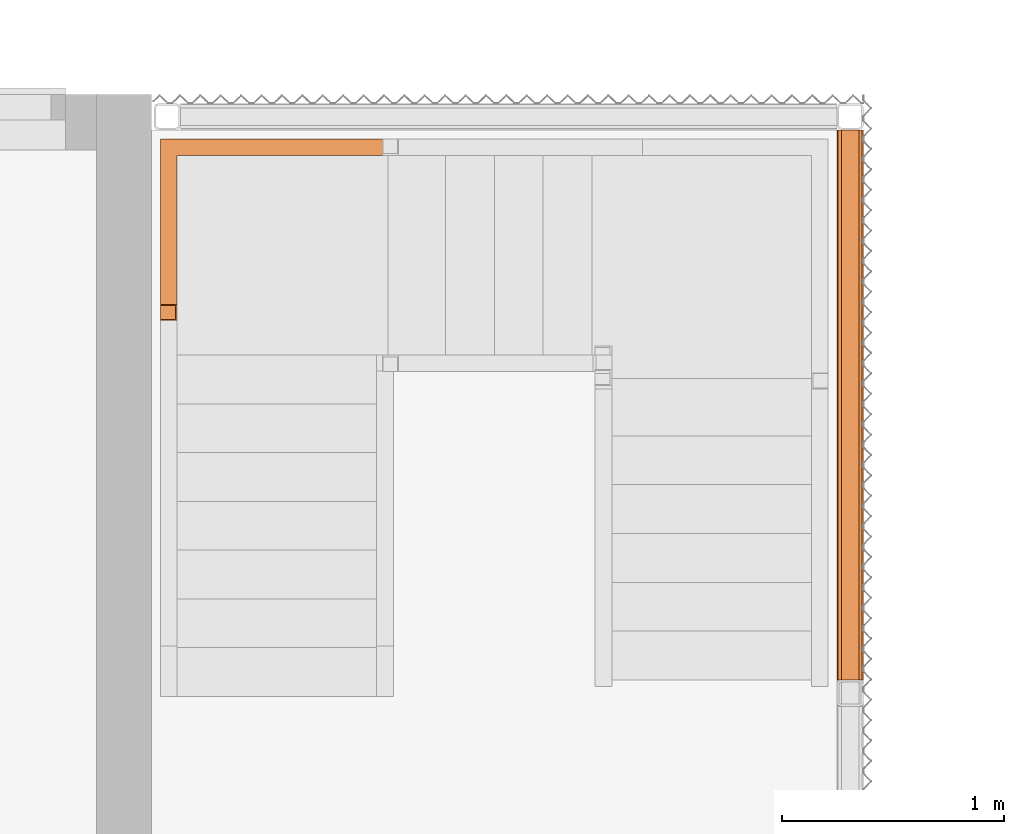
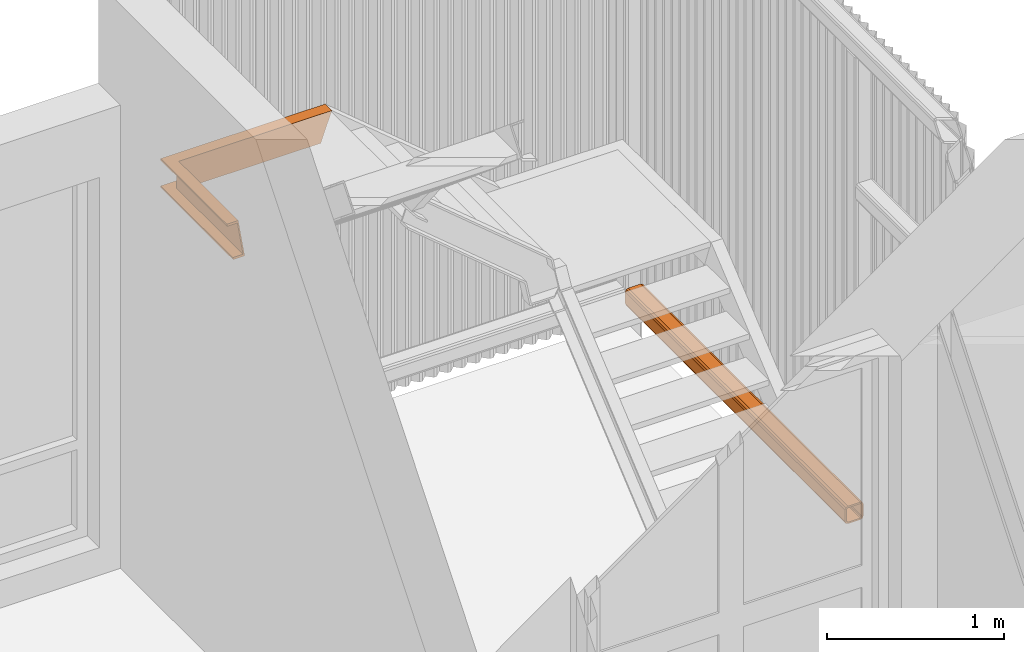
# One storey, part 112 of 117: 2 proxies, 1 element without a shape of its own.
"""IFC2X3 building model written with IfcOpenShell, lengths in millimetres."""

from ifc_helpers import new_model, entity, si_unit, converted_unit, derived_unit, money_unit, direction, frame, origin_with_axes, place, context, subcontext, project, spatial, faceted_brep, material, type_object, element, aggregate, save


model = new_model("IFC2X3")

# Units and contexts
model_context = context("Model", 3, precision=0.01, world=origin_with_axes(), true_north=direction((0.0, 1.0)))
body_context = subcontext(model_context, "Body", "Model", "MODEL_VIEW")
ifc_project = project(units=[si_unit("LENGTHUNIT", "METRE", prefix="MILLI"), si_unit("AREAUNIT", "SQUARE_METRE"), si_unit("VOLUMEUNIT", "CUBIC_METRE"), converted_unit("PLANEANGLEUNIT", "DEGREE", entity("IfcPlaneAngleMeasure", 0.0174532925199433), si_unit("PLANEANGLEUNIT", "RADIAN"), dimensions=[0, 0, 0, 0, 0, 0, 0]), money_unit("EUR"), converted_unit("TIMEUNIT", "Year", entity("IfcTimeMeasure", 31557600.0), si_unit("TIMEUNIT", "SECOND"), dimensions=[0, 0, 1, 0, 0, 0, 0]), si_unit("MASSUNIT", "GRAM", prefix="KILO"), si_unit("THERMODYNAMICTEMPERATUREUNIT", "DEGREE_CELSIUS"), si_unit("LUMINOUSINTENSITYUNIT", "LUMEN"), si_unit("ENERGYUNIT", "JOULE", prefix="MEGA"), derived_unit("THERMALCONDUCTANCEUNIT", [(si_unit("POWERUNIT", "WATT"), 1), (si_unit("LENGTHUNIT", "METRE"), -1), (si_unit("THERMODYNAMICTEMPERATUREUNIT", "KELVIN"), -1)]), derived_unit("SPECIFICHEATCAPACITYUNIT", [(si_unit("ENERGYUNIT", "JOULE"), 1), (si_unit("MASSUNIT", "GRAM", prefix="KILO"), -1), (si_unit("THERMODYNAMICTEMPERATUREUNIT", "KELVIN"), -1)]), derived_unit("MASSDENSITYUNIT", [(si_unit("MASSUNIT", "GRAM", prefix="KILO"), 1), (si_unit("VOLUMEUNIT", "CUBIC_METRE"), -1)])], contexts=[model_context])

# Site, building, storey
site_placement = place(None, origin_with_axes())
site = spatial("IfcSite", under=ifc_project, at=site_placement, Name="Site", CompositionType="ELEMENT")
building_placement = place(site_placement, origin_with_axes())
building = spatial("IfcBuilding", under=site, at=building_placement, Name="Naam gebouw", CompositionType="ELEMENT")
storey_placement = place(building_placement, frame((0.0, 0.0, 4150.0), z_axis=(0.0, 0.0, 1.0), x_axis=(1.0, 0.0, 0.0)))
storey = spatial("IfcBuildingStorey", under=building, at=storey_placement, Name="1e verdieping N", CompositionType="ELEMENT", Elevation=4150.0)

# Proxy
ifc_material_1 = material(Name="Metaal - Staal AFW")
building_element_proxy_type_1 = type_object("IfcBuildingElementProxyType", Name="Buis vk koudgev balk 26", PredefinedType="NOTDEFINED")
proxy_1_placement = place(storey_placement, frame((1799.999999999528, 24055.82979156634, 100.0000000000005), z_axis=(0.0, 0.0, 1.0), x_axis=(0.0, 1.0, 0.0)))
element("IfcBuildingElementProxy", 1, at=proxy_1_placement, inside=storey, type_object=building_element_proxy_type_1, material=ifc_material_1, Name="_Boom-x", context=body_context, shape_type="Brep", body=[
    faceted_brep([(0.0, -39.99999999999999, 0.0), (-2480.000000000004, -40.00000000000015, 0.0), (-2480.000000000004, 39.99999999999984, 0.0), (0.0, 39.99999999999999, 0.0), (0.0, -54.14213562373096, 5.857864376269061), (-2480.000000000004, -54.14213562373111, 5.857864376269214), (-2480.000000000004, -60.00000000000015, 20.00000000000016), (-2480.000000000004, -60.00000000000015, 100.0000000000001), (-2480.000000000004, -54.1421356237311, 114.1421356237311), (-2480.000000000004, -40.00000000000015, 120.0000000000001), (-2480.000000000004, 39.99999999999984, 120.0000000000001), (-2480.000000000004, 54.14213562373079, 114.1421356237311), (-2480.000000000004, 59.99999999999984, 100.0000000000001), (-2480.000000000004, 59.99999999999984, 20.00000000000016), (-2480.000000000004, 54.14213562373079, 5.857864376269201), (-2480.000000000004, -40.00000000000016, 10.00000000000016), (-2480.000000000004, 39.99999999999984, 10.00000000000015), (-2480.000000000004, 47.07106781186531, 12.92893218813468), (-2480.000000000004, 49.99999999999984, 20.00000000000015), (-2480.000000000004, 49.99999999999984, 100.0000000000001), (-2480.000000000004, 47.07106781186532, 107.0710678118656), (-2480.000000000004, 39.99999999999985, 110.0000000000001), (-2480.000000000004, -40.00000000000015, 110.0000000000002), (-2480.000000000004, -47.07106781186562, 107.0710678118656), (-2480.000000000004, -50.00000000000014, 100.0000000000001), (-2480.000000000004, -50.00000000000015, 20.00000000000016), (-2480.000000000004, -47.07106781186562, 12.92893218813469), (0.0, 54.14213562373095, 5.857864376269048), (0.0, 60.0, 20.0), (0.0, 60.0, 99.99999999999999), (0.0, 54.14213562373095, 114.142135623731), (0.0, 39.99999999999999, 120.0), (0.0, -39.99999999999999, 120.0), (0.0, -54.14213562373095, 114.142135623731), (0.0, -60.0, 99.99999999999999), (0.0, -60.0, 20.0), (0.0, -40.0, 10.00000000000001), (0.0, -47.07106781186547, 12.92893218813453), (0.0, -49.99999999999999, 20.0), (0.0, -49.99999999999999, 100.0), (0.0, -47.07106781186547, 107.0710678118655), (0.0, -39.99999999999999, 110.0), (0.0, 40.0, 110.0), (0.0, 47.07106781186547, 107.0710678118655), (0.0, 49.99999999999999, 99.99999999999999), (0.0, 49.99999999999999, 20.0), (0.0, 47.07106781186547, 12.92893218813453), (0.0, 39.99999999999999, 10.0)], [[[0, 1, 2, 3]], [[4, 5, 1, 0]], [[1, 5, 6, 7, 8, 9, 10, 11, 12, 13, 14, 2], [15, 16, 17, 18, 19, 20, 21, 22, 23, 24, 25, 26]], [[3, 2, 14, 27]], [[0, 3, 27, 28, 29, 30, 31, 32, 33, 34, 35, 4], [36, 37, 38, 39, 40, 41, 42, 43, 44, 45, 46, 47]], [[35, 6, 5, 4]], [[34, 7, 6, 35]], [[33, 8, 7, 34]], [[32, 9, 8, 33]], [[31, 10, 9, 32]], [[30, 11, 10, 31]], [[29, 12, 11, 30]], [[28, 13, 12, 29]], [[27, 14, 13, 28]], [[47, 16, 15, 36]], [[46, 17, 16, 47]], [[45, 18, 17, 46]], [[44, 19, 18, 45]], [[43, 20, 19, 44]], [[42, 21, 20, 43]], [[41, 22, 21, 42]], [[40, 23, 22, 41]], [[39, 24, 23, 40]], [[38, 25, 24, 39]], [[37, 26, 25, 38]], [[36, 15, 26, 37]]]),
])

# Stair, proxy
stair_placement = place(storey_placement, frame((1624.999999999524, 21575.82979156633, 0.0), z_axis=(0.0, 0.0, 1.0), x_axis=(1.0, 0.0, 0.0)))
stair = element("IfcStair", 2, at=stair_placement, inside=storey, Name="_Trap-x", ShapeType="NOTDEFINED")
ifc_material_2 = material(Name="Metaal - Staal C")
building_element_proxy_type_2 = type_object("IfcBuildingElementProxyType", Name="IfcBuildingElementProxy", PredefinedType="NOTDEFINED")
proxy_2_placement = place(stair_placement, origin_with_axes())
proxy_2 = element("IfcBuildingElementProxy", 3, at=proxy_2_placement, type_object=building_element_proxy_type_2, material=ifc_material_2, Name="_SS - 005", context=body_context, shape_type="Brep", body=[
    faceted_brep([(-2934.999999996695, 1688.609458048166, 2199.026315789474), (-2934.999999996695, 1692.788312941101, 2210.526315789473), (-2934.999999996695, 2440.000002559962, 2210.526315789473), (-2934.999999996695, 2440.000002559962, 2199.026315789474), (-2859.999999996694, 1692.788312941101, 2210.526315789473), (-2868.499999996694, 1688.609458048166, 2199.026315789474), (-2868.499999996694, 1624.291430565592, 2022.026315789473), (-2934.999999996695, 1624.291430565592, 2022.026315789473), (-2934.999999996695, 1620.112575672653, 2010.526315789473), (-2859.999999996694, 1620.112575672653, 2010.526315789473), (-2859.999999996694, 2365.000002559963, 2210.526315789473), (-1862.211677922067, 2365.000002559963, 2210.526316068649), (-1862.211677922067, 2440.000000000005, 2210.526316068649), (-1866.390532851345, 2440.000000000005, 2199.026315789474), (-1866.390532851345, 2373.500002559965, 2199.026315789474), (-2868.499999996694, 2373.500002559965, 2199.026315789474), (-2868.499999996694, 2373.500002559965, 2022.026315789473), (-1930.708559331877, 2373.500002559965, 2022.026315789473), (-1930.708559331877, 2440.000000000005, 2022.026315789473), (-2934.999999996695, 2440.000002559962, 2022.026315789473), (-2934.999999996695, 2440.000002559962, 2010.526315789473), (-1934.887414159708, 2440.000000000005, 2010.526315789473), (-1934.887414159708, 2365.000002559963, 2010.526315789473), (-2859.999999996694, 2365.000002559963, 2010.526315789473)], [[[0, 1, 2, 3]], [[4, 1, 0, 5, 6, 7, 8, 9]], [[1, 4, 10, 11, 12, 2]], [[13, 3, 2, 12]], [[5, 0, 3, 13, 14, 15]], [[6, 5, 15, 16]], [[7, 6, 16, 17, 18, 19]], [[8, 7, 19, 20]], [[9, 8, 20, 21, 22, 23]], [[4, 9, 23, 10]], [[11, 10, 23, 22]], [[13, 12, 11, 22, 21, 18, 17, 14]], [[17, 16, 15, 14]], [[21, 20, 19, 18]]]),
])
aggregate(stair, [proxy_2])

save(model, "model.ifc")
